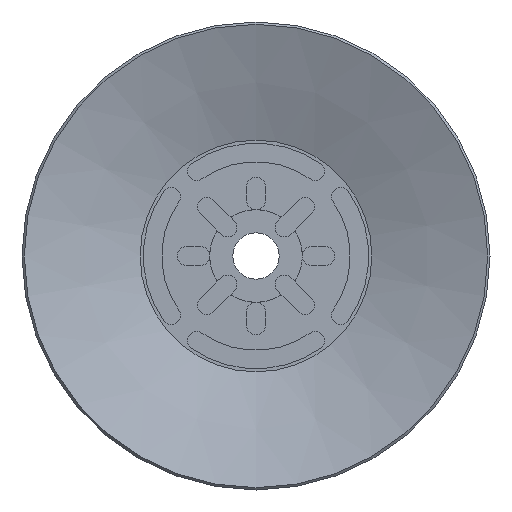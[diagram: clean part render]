
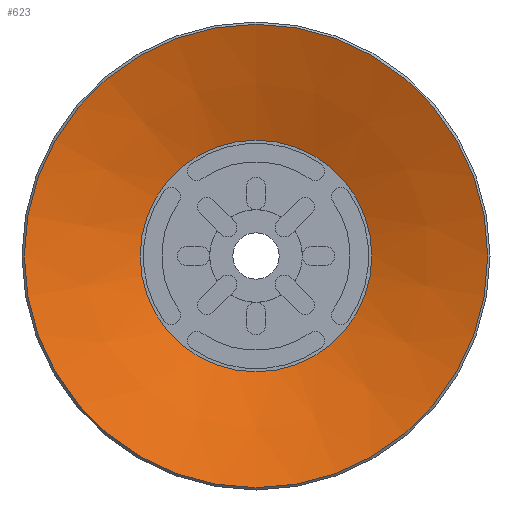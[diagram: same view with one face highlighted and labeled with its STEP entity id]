
A CAD part, front view. The second image highlights one B-rep face of the part: STEP entity #623.
In plain terms, the highlighted conical face has half-angle 70.201 degrees and reference radius 7.5 mm.
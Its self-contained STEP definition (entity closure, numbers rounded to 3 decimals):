
#623=ADVANCED_FACE('',(#1024,#1025),#1026,.F.);
#1024=FACE_BOUND('',#1456,.T.);
#1025=FACE_OUTER_BOUND('',#1457,.T.);
#1026=CONICAL_SURFACE('',#1458,7.5,1.225);
#1456=EDGE_LOOP('',(#2767));
#1457=EDGE_LOOP('',(#2768));
#1458=AXIS2_PLACEMENT_3D('',#2769,#2770,#2771);
#2767=ORIENTED_EDGE('',*,*,#3144,.F.);
#2768=ORIENTED_EDGE('',*,*,#3206,.T.);
#2769=CARTESIAN_POINT('',(0.0,0.0,2.7));
#2770=DIRECTION('',(0.0,0.,-1.0));
#2771=DIRECTION('',(0.0,1.0,0.));
#3144=EDGE_CURVE('',#3740,#3740,#3741,.T.);
#3206=EDGE_CURVE('',#3846,#3846,#3847,.T.);
#3740=VERTEX_POINT('',#4869);
#3741=CIRCLE('',#4870,7.5);
#3846=VERTEX_POINT('',#5013);
#3847=CIRCLE('',#5014,15.0);
#4869=CARTESIAN_POINT('',(0.0,7.5,2.7));
#4870=AXIS2_PLACEMENT_3D('',#5617,#5618,#5619);
#5013=CARTESIAN_POINT('',(0.0,15.0,0.));
#5014=AXIS2_PLACEMENT_3D('',#5727,#5728,#5729);
#5617=CARTESIAN_POINT('',(0.0,0.0,2.7));
#5618=DIRECTION('',(0.0,0.,-1.0));
#5619=DIRECTION('',(0.0,1.0,0.));
#5727=CARTESIAN_POINT('',(0.0,0.0,0.0));
#5728=DIRECTION('',(0.0,0.,-1.0));
#5729=DIRECTION('',(0.0,1.0,0.));
